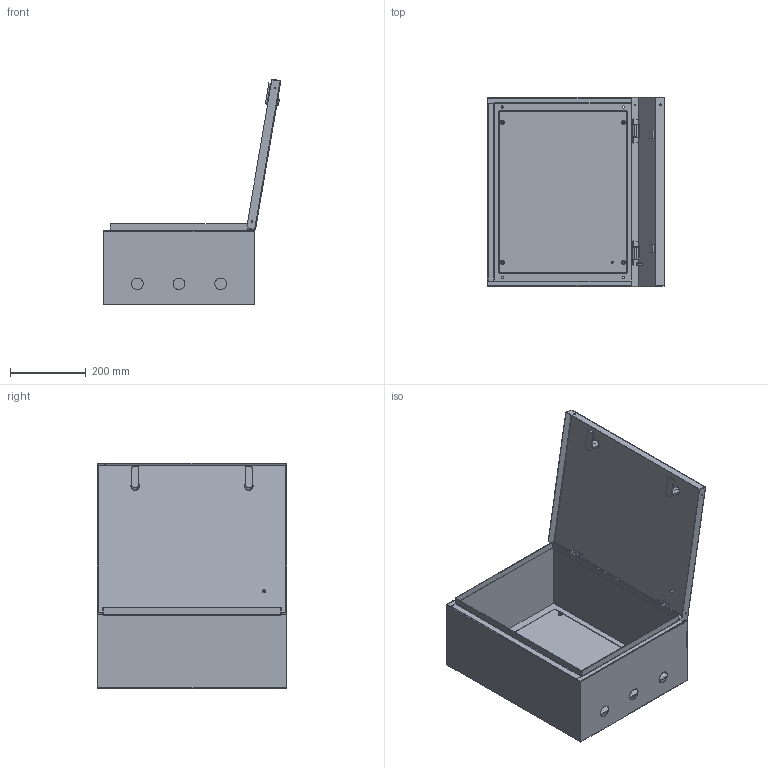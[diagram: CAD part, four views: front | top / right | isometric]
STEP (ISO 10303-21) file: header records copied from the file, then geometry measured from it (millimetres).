
FILE_DESCRIPTION (( 'STEP AP214' ), '1' );
FILE_NAME ('ﾙﾌﾏ02.STEP', '2020-03-11T12:20:08', ( '' ), ( '' ), 'SwSTEP 2.0', 'SolidWorks 2018', '' );
FILE_SCHEMA (( 'AUTOMOTIVE_DESIGN' ));
Length unit declared in the file: millimetre
Products named in the file (10): ﾙﾌﾏ02; 沓艜_眈翴錪02; Ïàíåëü_êîðïóñ_íèæ02; ﾇ瑟鶴; 拟屦黖IP54_02; 相礤朦_觐痫篑_忮瘐02; Ãàéêà_Ì6; ïåòëÿ_êîïðóñà_IP54; 扻豵鵨02; Ïåòëÿ_Äâåðè_P54
Assembly tree (15 placements, depth 2):
  ﾙﾌﾏ02
    扻豵鵨02
    相礤朦_觐痫篑_忮瘐02
    Ïàíåëü_êîðïóñ_íèæ02
    沓艜_眈翴錪02
    拟屦黖IP54_02
    ïåòëÿ_êîïðóñà_IP54  x2
    Ïåòëÿ_Äâåðè_P54  x2
    Ãàéêà_Ì6  x4
    ﾇ瑟鶴  x2
Bounding box: 468.91 x 500 x 595.38 mm (x, y, z)
Volume: 1243062 mm3; surface area: 2044221.1 mm2
Topology: 15 solids, 15 shells, 541 faces, 1252 edges, 754 vertices
Faces by surface type: plane 305, cylinder 170, cone 50, bspline 16
Entity records: 12677 total; most frequent: CARTESIAN_POINT 2928, DIRECTION 1927, ORIENTED_EDGE 1846, EDGE_CURVE 923, AXIS2_PLACEMENT_3D 663, VECTOR 601, LINE 601, VERTEX_POINT 552
